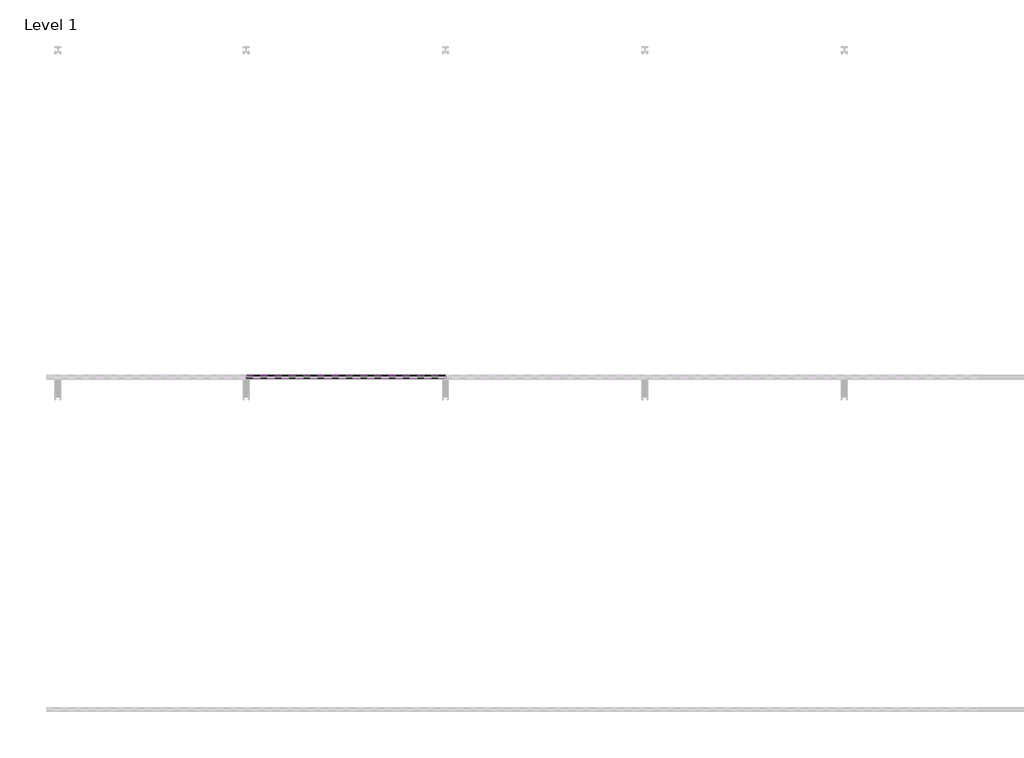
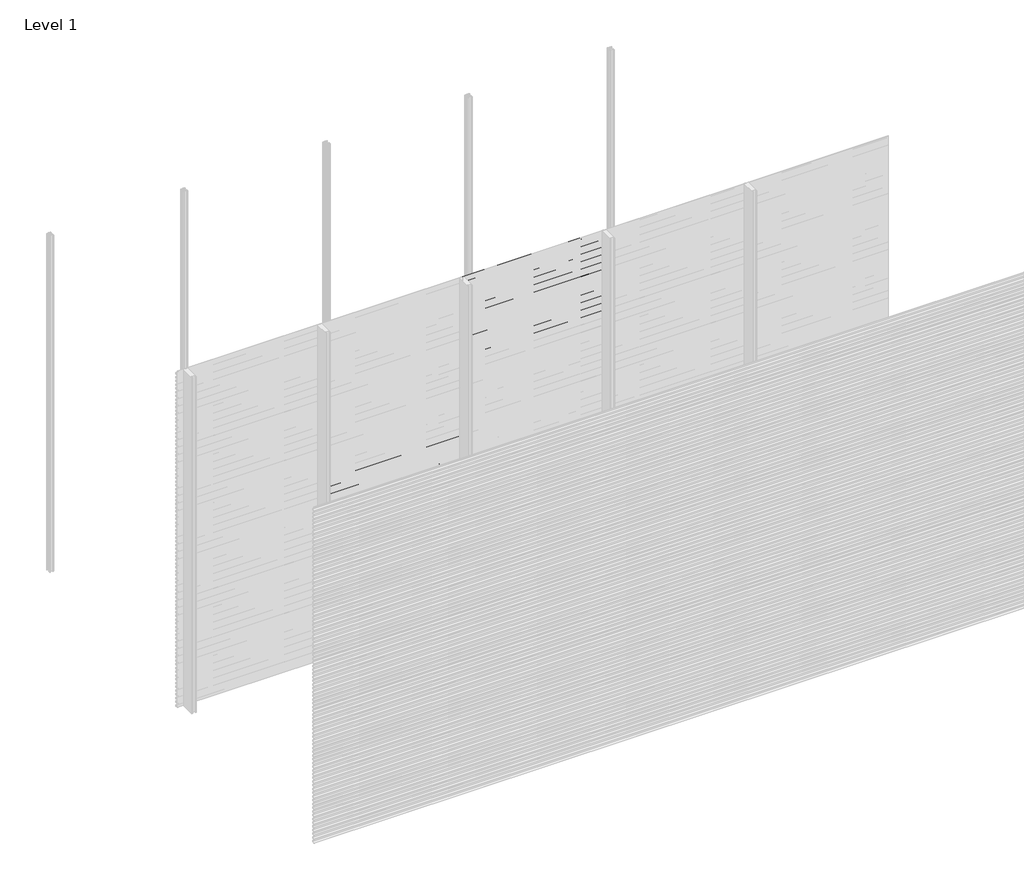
# One storey, part 14 of 77: 72 proxies.
"""IFC4 building model written with IfcOpenShell, lengths in millimetres."""

from ifc_helpers import new_model, si_unit, frame, origin, place, context, project, spatial, polyline, outline, extrude, element, save

model = new_model("IFC4")

# Units and contexts
model_context = context("Model", 3, world=origin())
ifc_project = project(units=[si_unit("LENGTHUNIT", "METRE", prefix="MILLI")], contexts=[model_context])

# Site, building, storey
site = spatial("IfcSite", under=ifc_project)
building = spatial("IfcBuilding", under=site)
storey = spatial("IfcBuildingStorey", under=building, Name="Level 1", Elevation=0.0)

# Proxies
placement = place(None, origin())
element("IfcBuildingElementProxy", 1, Name="Wall Sweeps", at=placement, inside=storey, context=model_context, shape_type="SweptSolid", body=[
    extrude(outline(polyline([(-47978.6, 1607.2359887), (-47998.0, 1618.4366691), (-47998.0, 1631.7), (-47997.0, 1631.7), (-47997.0, 1619.0191057), (-47977.6, 1607.8185105), (-47977.6, 1594.2185105), (-47978.6, 1595.7953129), (-47978.6, 1601.6032062), (-47995.9773817, 1593.5), (-47996.4, 1594.4063078), (-47978.6, 1602.7065841), (-47978.6, 1607.2359887)])), frame((1200.0, 0.0, 0.0), z_axis=(1.0, 0.0, 0.0), x_axis=(0.0, 1.0, 0.0)), (0.0, 0.0, 1.0), 1200.0),
])
element("IfcBuildingElementProxy", 2, Name="Wall Sweeps", at=placement, inside=storey, context=model_context, shape_type="SweptSolid", body=[
    extrude(outline(polyline([(-47978.6, 1573.9359887), (-47998.0, 1585.1366691), (-47998.0, 1598.4), (-47997.0, 1598.4), (-47997.0, 1585.7191057), (-47977.6, 1574.5185105), (-47977.6, 1560.9185105), (-47978.6, 1562.4953129), (-47978.6, 1568.3032062), (-47995.9773817, 1560.2), (-47996.4, 1561.1063078), (-47978.6, 1569.4065841), (-47978.6, 1573.9359887)])), frame((1200.0, 0.0, 0.0), z_axis=(1.0, 0.0, 0.0), x_axis=(0.0, 1.0, 0.0)), (0.0, 0.0, 1.0), 1200.0),
])
element("IfcBuildingElementProxy", 3, Name="Wall Sweeps", at=placement, inside=storey, context=model_context, shape_type="SweptSolid", body=[
    extrude(outline(polyline([(-47978.6, 1540.6359887), (-47998.0, 1551.8366691), (-47998.0, 1565.1), (-47997.0, 1565.1), (-47997.0, 1552.4191057), (-47977.6, 1541.2185105), (-47977.6, 1527.6185105), (-47978.6, 1529.1953129), (-47978.6, 1535.0032062), (-47995.9773817, 1526.9), (-47996.4, 1527.8063078), (-47978.6, 1536.1065841), (-47978.6, 1540.6359887)])), frame((1200.0, 0.0, 0.0), z_axis=(1.0, 0.0, 0.0), x_axis=(0.0, 1.0, 0.0)), (0.0, 0.0, 1.0), 1200.0),
])
element("IfcBuildingElementProxy", 4, Name="Wall Sweeps", at=placement, inside=storey, context=model_context, shape_type="SweptSolid", body=[
    extrude(outline(polyline([(-47978.6, 1507.3359887), (-47998.0, 1518.5366691), (-47998.0, 1531.8), (-47997.0, 1531.8), (-47997.0, 1519.1191057), (-47977.6, 1507.9185105), (-47977.6, 1494.3185105), (-47978.6, 1495.8953129), (-47978.6, 1501.7032062), (-47995.9773817, 1493.6), (-47996.4, 1494.5063078), (-47978.6, 1502.8065841), (-47978.6, 1507.3359887)])), frame((1200.0, 0.0, 0.0), z_axis=(1.0, 0.0, 0.0), x_axis=(0.0, 1.0, 0.0)), (0.0, 0.0, 1.0), 1200.0),
])
element("IfcBuildingElementProxy", 5, Name="Wall Sweeps", at=placement, inside=storey, context=model_context, shape_type="SweptSolid", body=[
    extrude(outline(polyline([(-47978.6, 1474.0359887), (-47998.0, 1485.2366691), (-47998.0, 1498.5), (-47997.0, 1498.5), (-47997.0, 1485.8191057), (-47977.6, 1474.6185105), (-47977.6, 1461.0185105), (-47978.6, 1462.5953129), (-47978.6, 1468.4032062), (-47995.9773817, 1460.3), (-47996.4, 1461.2063078), (-47978.6, 1469.5065841), (-47978.6, 1474.0359887)])), frame((1200.0, 0.0, 0.0), z_axis=(1.0, 0.0, 0.0), x_axis=(0.0, 1.0, 0.0)), (0.0, 0.0, 1.0), 1200.0),
])
element("IfcBuildingElementProxy", 6, Name="Wall Sweeps", at=placement, inside=storey, context=model_context, shape_type="SweptSolid", body=[
    extrude(outline(polyline([(-47978.6, 1440.7359887), (-47998.0, 1451.9366691), (-47998.0, 1465.2), (-47997.0, 1465.2), (-47997.0, 1452.5191057), (-47977.6, 1441.3185105), (-47977.6, 1427.7185105), (-47978.6, 1429.2953129), (-47978.6, 1435.1032062), (-47995.9773817, 1427.0), (-47996.4, 1427.9063078), (-47978.6, 1436.2065841), (-47978.6, 1440.7359887)])), frame((1200.0, 0.0, 0.0), z_axis=(1.0, 0.0, 0.0), x_axis=(0.0, 1.0, 0.0)), (0.0, 0.0, 1.0), 1200.0),
])
element("IfcBuildingElementProxy", 7, Name="Wall Sweeps", at=placement, inside=storey, context=model_context, shape_type="SweptSolid", body=[
    extrude(outline(polyline([(-47978.6, 1407.4359887), (-47998.0, 1418.6366691), (-47998.0, 1431.9), (-47997.0, 1431.9), (-47997.0, 1419.2191057), (-47977.6, 1408.0185105), (-47977.6, 1394.4185105), (-47978.6, 1395.9953129), (-47978.6, 1401.8032062), (-47995.9773817, 1393.7), (-47996.4, 1394.6063078), (-47978.6, 1402.9065841), (-47978.6, 1407.4359887)])), frame((1200.0, 0.0, 0.0), z_axis=(1.0, 0.0, 0.0), x_axis=(0.0, 1.0, 0.0)), (0.0, 0.0, 1.0), 1200.0),
])
element("IfcBuildingElementProxy", 8, Name="Wall Sweeps", at=placement, inside=storey, context=model_context, shape_type="SweptSolid", body=[
    extrude(outline(polyline([(-47978.6, 1374.1359887), (-47998.0, 1385.3366691), (-47998.0, 1398.6), (-47997.0, 1398.6), (-47997.0, 1385.9191057), (-47977.6, 1374.7185105), (-47977.6, 1361.1185105), (-47978.6, 1362.6953129), (-47978.6, 1368.5032062), (-47995.9773817, 1360.4), (-47996.4, 1361.3063078), (-47978.6, 1369.6065841), (-47978.6, 1374.1359887)])), frame((1200.0, 0.0, 0.0), z_axis=(1.0, 0.0, 0.0), x_axis=(0.0, 1.0, 0.0)), (0.0, 0.0, 1.0), 1200.0),
])
element("IfcBuildingElementProxy", 9, Name="Wall Sweeps", at=placement, inside=storey, context=model_context, shape_type="SweptSolid", body=[
    extrude(outline(polyline([(-47978.6, 1340.8359887), (-47998.0, 1352.0366691), (-47998.0, 1365.3), (-47997.0, 1365.3), (-47997.0, 1352.6191057), (-47977.6, 1341.4185105), (-47977.6, 1327.8185105), (-47978.6, 1329.3953129), (-47978.6, 1335.2032062), (-47995.9773817, 1327.1), (-47996.4, 1328.0063078), (-47978.6, 1336.3065841), (-47978.6, 1340.8359887)])), frame((1200.0, 0.0, 0.0), z_axis=(1.0, 0.0, 0.0), x_axis=(0.0, 1.0, 0.0)), (0.0, 0.0, 1.0), 1200.0),
])
element("IfcBuildingElementProxy", 10, Name="Wall Sweeps", at=placement, inside=storey, context=model_context, shape_type="SweptSolid", body=[
    extrude(outline(polyline([(-47978.6, 1307.5359887), (-47998.0, 1318.7366691), (-47998.0, 1332.0), (-47997.0, 1332.0), (-47997.0, 1319.3191057), (-47977.6, 1308.1185105), (-47977.6, 1294.5185105), (-47978.6, 1296.0953129), (-47978.6, 1301.9032062), (-47995.9773817, 1293.8), (-47996.4, 1294.7063078), (-47978.6, 1303.0065841), (-47978.6, 1307.5359887)])), frame((1200.0, 0.0, 0.0), z_axis=(1.0, 0.0, 0.0), x_axis=(0.0, 1.0, 0.0)), (0.0, 0.0, 1.0), 1200.0),
])
element("IfcBuildingElementProxy", 11, Name="Wall Sweeps", at=placement, inside=storey, context=model_context, shape_type="SweptSolid", body=[
    extrude(outline(polyline([(-47978.6, 1274.2359887), (-47998.0, 1285.4366691), (-47998.0, 1298.7), (-47997.0, 1298.7), (-47997.0, 1286.0191057), (-47977.6, 1274.8185105), (-47977.6, 1261.2185105), (-47978.6, 1262.7953129), (-47978.6, 1268.6032062), (-47995.9773817, 1260.5), (-47996.4, 1261.4063078), (-47978.6, 1269.7065841), (-47978.6, 1274.2359887)])), frame((1200.0, 0.0, 0.0), z_axis=(1.0, 0.0, 0.0), x_axis=(0.0, 1.0, 0.0)), (0.0, 0.0, 1.0), 1200.0),
])
element("IfcBuildingElementProxy", 12, Name="Wall Sweeps", at=placement, inside=storey, context=model_context, shape_type="SweptSolid", body=[
    extrude(outline(polyline([(-47978.6, 1240.9359887), (-47998.0, 1252.1366691), (-47998.0, 1265.4), (-47997.0, 1265.4), (-47997.0, 1252.7191057), (-47977.6, 1241.5185105), (-47977.6, 1227.9185105), (-47978.6, 1229.4953129), (-47978.6, 1235.3032062), (-47995.9773817, 1227.2), (-47996.4, 1228.1063078), (-47978.6, 1236.4065841), (-47978.6, 1240.9359887)])), frame((1200.0, 0.0, 0.0), z_axis=(1.0, 0.0, 0.0), x_axis=(0.0, 1.0, 0.0)), (0.0, 0.0, 1.0), 1200.0),
])
element("IfcBuildingElementProxy", 13, Name="Wall Sweeps", at=placement, inside=storey, context=model_context, shape_type="SweptSolid", body=[
    extrude(outline(polyline([(-47978.6, 1207.6359887), (-47998.0, 1218.8366691), (-47998.0, 1232.1), (-47997.0, 1232.1), (-47997.0, 1219.4191057), (-47977.6, 1208.2185105), (-47977.6, 1194.6185105), (-47978.6, 1196.1953129), (-47978.6, 1202.0032062), (-47995.9773817, 1193.9), (-47996.4, 1194.8063078), (-47978.6, 1203.1065841), (-47978.6, 1207.6359887)])), frame((1200.0, 0.0, 0.0), z_axis=(1.0, 0.0, 0.0), x_axis=(0.0, 1.0, 0.0)), (0.0, 0.0, 1.0), 1200.0),
])
element("IfcBuildingElementProxy", 14, Name="Wall Sweeps", at=placement, inside=storey, context=model_context, shape_type="SweptSolid", body=[
    extrude(outline(polyline([(-47978.6, 1174.3359887), (-47998.0, 1185.5366691), (-47998.0, 1198.8), (-47997.0, 1198.8), (-47997.0, 1186.1191057), (-47977.6, 1174.9185105), (-47977.6, 1161.3185105), (-47978.6, 1162.8953129), (-47978.6, 1168.7032062), (-47995.9773817, 1160.6), (-47996.4, 1161.5063078), (-47978.6, 1169.8065841), (-47978.6, 1174.3359887)])), frame((1200.0, 0.0, 0.0), z_axis=(1.0, 0.0, 0.0), x_axis=(0.0, 1.0, 0.0)), (0.0, 0.0, 1.0), 1200.0),
])
element("IfcBuildingElementProxy", 15, Name="Wall Sweeps", at=placement, inside=storey, context=model_context, shape_type="SweptSolid", body=[
    extrude(outline(polyline([(-47978.6, 1141.0359887), (-47998.0, 1152.2366691), (-47998.0, 1165.5), (-47997.0, 1165.5), (-47997.0, 1152.8191057), (-47977.6, 1141.6185105), (-47977.6, 1128.0185105), (-47978.6, 1129.5953129), (-47978.6, 1135.4032062), (-47995.9773817, 1127.3), (-47996.4, 1128.2063078), (-47978.6, 1136.5065841), (-47978.6, 1141.0359887)])), frame((1200.0, 0.0, 0.0), z_axis=(1.0, 0.0, 0.0), x_axis=(0.0, 1.0, 0.0)), (0.0, 0.0, 1.0), 1200.0),
])
element("IfcBuildingElementProxy", 16, Name="Wall Sweeps", at=placement, inside=storey, context=model_context, shape_type="SweptSolid", body=[
    extrude(outline(polyline([(-47978.6, 1107.7359887), (-47998.0, 1118.9366691), (-47998.0, 1132.2), (-47997.0, 1132.2), (-47997.0, 1119.5191057), (-47977.6, 1108.3185105), (-47977.6, 1094.7185105), (-47978.6, 1096.2953129), (-47978.6, 1102.1032062), (-47995.9773817, 1094.0), (-47996.4, 1094.9063078), (-47978.6, 1103.2065841), (-47978.6, 1107.7359887)])), frame((1200.0, 0.0, 0.0), z_axis=(1.0, 0.0, 0.0), x_axis=(0.0, 1.0, 0.0)), (0.0, 0.0, 1.0), 1200.0),
])
element("IfcBuildingElementProxy", 17, Name="Wall Sweeps", at=placement, inside=storey, context=model_context, shape_type="SweptSolid", body=[
    extrude(outline(polyline([(-47978.6, 1074.4359887), (-47998.0, 1085.6366691), (-47998.0, 1098.9), (-47997.0, 1098.9), (-47997.0, 1086.2191057), (-47977.6, 1075.0185105), (-47977.6, 1061.4185105), (-47978.6, 1062.9953129), (-47978.6, 1068.8032062), (-47995.9773817, 1060.7), (-47996.4, 1061.6063078), (-47978.6, 1069.9065841), (-47978.6, 1074.4359887)])), frame((1200.0, 0.0, 0.0), z_axis=(1.0, 0.0, 0.0), x_axis=(0.0, 1.0, 0.0)), (0.0, 0.0, 1.0), 1200.0),
])
element("IfcBuildingElementProxy", 18, Name="Wall Sweeps", at=placement, inside=storey, context=model_context, shape_type="SweptSolid", body=[
    extrude(outline(polyline([(-47978.6, 1041.1359887), (-47998.0, 1052.3366691), (-47998.0, 1065.6), (-47997.0, 1065.6), (-47997.0, 1052.9191057), (-47977.6, 1041.7185105), (-47977.6, 1028.1185105), (-47978.6, 1029.6953129), (-47978.6, 1035.5032062), (-47995.9773817, 1027.4), (-47996.4, 1028.3063078), (-47978.6, 1036.6065841), (-47978.6, 1041.1359887)])), frame((1200.0, 0.0, 0.0), z_axis=(1.0, 0.0, 0.0), x_axis=(0.0, 1.0, 0.0)), (0.0, 0.0, 1.0), 1200.0),
])
element("IfcBuildingElementProxy", 19, Name="Wall Sweeps", at=placement, inside=storey, context=model_context, shape_type="SweptSolid", body=[
    extrude(outline(polyline([(-47978.6, 1007.8359887), (-47998.0, 1019.0366691), (-47998.0, 1032.3), (-47997.0, 1032.3), (-47997.0, 1019.6191057), (-47977.6, 1008.4185105), (-47977.6, 994.8185105), (-47978.6, 996.3953129), (-47978.6, 1002.2032062), (-47995.9773817, 994.1), (-47996.4, 995.0063078), (-47978.6, 1003.3065841), (-47978.6, 1007.8359887)])), frame((1200.0, 0.0, 0.0), z_axis=(1.0, 0.0, 0.0), x_axis=(0.0, 1.0, 0.0)), (0.0, 0.0, 1.0), 1200.0),
])
element("IfcBuildingElementProxy", 20, Name="Wall Sweeps", at=placement, inside=storey, context=model_context, shape_type="SweptSolid", body=[
    extrude(outline(polyline([(-47978.6, 974.5359887), (-47998.0, 985.7366691), (-47998.0, 999.0), (-47997.0, 999.0), (-47997.0, 986.3191057), (-47977.6, 975.1185105), (-47977.6, 961.5185105), (-47978.6, 963.0953129), (-47978.6, 968.9032062), (-47995.9773817, 960.8), (-47996.4, 961.7063078), (-47978.6, 970.0065841), (-47978.6, 974.5359887)])), frame((1200.0, 0.0, 0.0), z_axis=(1.0, 0.0, 0.0), x_axis=(0.0, 1.0, 0.0)), (0.0, 0.0, 1.0), 1200.0),
])
element("IfcBuildingElementProxy", 21, Name="Wall Sweeps", at=placement, inside=storey, context=model_context, shape_type="SweptSolid", body=[
    extrude(outline(polyline([(-47978.6, 941.2359887), (-47998.0, 952.4366691), (-47998.0, 965.7), (-47997.0, 965.7), (-47997.0, 953.0191057), (-47977.6, 941.8185105), (-47977.6, 928.2185105), (-47978.6, 929.7953129), (-47978.6, 935.6032062), (-47995.9773817, 927.5), (-47996.4, 928.4063078), (-47978.6, 936.7065841), (-47978.6, 941.2359887)])), frame((1200.0, 0.0, 0.0), z_axis=(1.0, 0.0, 0.0), x_axis=(0.0, 1.0, 0.0)), (0.0, 0.0, 1.0), 1200.0),
])
element("IfcBuildingElementProxy", 22, Name="Wall Sweeps", at=placement, inside=storey, context=model_context, shape_type="SweptSolid", body=[
    extrude(outline(polyline([(-47978.6, 907.9359887), (-47998.0, 919.1366691), (-47998.0, 932.4), (-47997.0, 932.4), (-47997.0, 919.7191057), (-47977.6, 908.5185105), (-47977.6, 894.9185105), (-47978.6, 896.4953129), (-47978.6, 902.3032062), (-47995.9773817, 894.2), (-47996.4, 895.1063078), (-47978.6, 903.4065841), (-47978.6, 907.9359887)])), frame((1200.0, 0.0, 0.0), z_axis=(1.0, 0.0, 0.0), x_axis=(0.0, 1.0, 0.0)), (0.0, 0.0, 1.0), 1200.0),
])
element("IfcBuildingElementProxy", 23, Name="Wall Sweeps", at=placement, inside=storey, context=model_context, shape_type="SweptSolid", body=[
    extrude(outline(polyline([(-47978.6, 874.6359887), (-47998.0, 885.8366691), (-47998.0, 899.1), (-47997.0, 899.1), (-47997.0, 886.4191057), (-47977.6, 875.2185105), (-47977.6, 861.6185105), (-47978.6, 863.1953129), (-47978.6, 869.0032062), (-47995.9773817, 860.9), (-47996.4, 861.8063078), (-47978.6, 870.1065841), (-47978.6, 874.6359887)])), frame((1200.0, 0.0, 0.0), z_axis=(1.0, 0.0, 0.0), x_axis=(0.0, 1.0, 0.0)), (0.0, 0.0, 1.0), 1200.0),
])
element("IfcBuildingElementProxy", 24, Name="Wall Sweeps", at=placement, inside=storey, context=model_context, shape_type="SweptSolid", body=[
    extrude(outline(polyline([(-47978.6, 841.3359887), (-47998.0, 852.5366691), (-47998.0, 865.8), (-47997.0, 865.8), (-47997.0, 853.1191057), (-47977.6, 841.9185105), (-47977.6, 828.3185105), (-47978.6, 829.8953129), (-47978.6, 835.7032062), (-47995.9773817, 827.6), (-47996.4, 828.5063078), (-47978.6, 836.8065841), (-47978.6, 841.3359887)])), frame((1200.0, 0.0, 0.0), z_axis=(1.0, 0.0, 0.0), x_axis=(0.0, 1.0, 0.0)), (0.0, 0.0, 1.0), 1200.0),
])
element("IfcBuildingElementProxy", 25, Name="Wall Sweeps", at=placement, inside=storey, context=model_context, shape_type="SweptSolid", body=[
    extrude(outline(polyline([(-47978.6, 808.0359887), (-47998.0, 819.2366691), (-47998.0, 832.5), (-47997.0, 832.5), (-47997.0, 819.8191057), (-47977.6, 808.6185105), (-47977.6, 795.0185105), (-47978.6, 796.5953129), (-47978.6, 802.4032062), (-47995.9773817, 794.3), (-47996.4, 795.2063078), (-47978.6, 803.5065841), (-47978.6, 808.0359887)])), frame((1200.0, 0.0, 0.0), z_axis=(1.0, 0.0, 0.0), x_axis=(0.0, 1.0, 0.0)), (0.0, 0.0, 1.0), 1200.0),
])
element("IfcBuildingElementProxy", 26, Name="Wall Sweeps", at=placement, inside=storey, context=model_context, shape_type="SweptSolid", body=[
    extrude(outline(polyline([(-47978.6, 774.7359887), (-47998.0, 785.9366691), (-47998.0, 799.2), (-47997.0, 799.2), (-47997.0, 786.5191057), (-47977.6, 775.3185105), (-47977.6, 761.7185105), (-47978.6, 763.2953129), (-47978.6, 769.1032062), (-47995.9773817, 761.0), (-47996.4, 761.9063078), (-47978.6, 770.2065841), (-47978.6, 774.7359887)])), frame((1200.0, 0.0, 0.0), z_axis=(1.0, 0.0, 0.0), x_axis=(0.0, 1.0, 0.0)), (0.0, 0.0, 1.0), 1200.0),
])
element("IfcBuildingElementProxy", 27, Name="Wall Sweeps", at=placement, inside=storey, context=model_context, shape_type="SweptSolid", body=[
    extrude(outline(polyline([(-47978.6, 741.4359887), (-47998.0, 752.6366691), (-47998.0, 765.9), (-47997.0, 765.9), (-47997.0, 753.2191057), (-47977.6, 742.0185105), (-47977.6, 728.4185105), (-47978.6, 729.9953129), (-47978.6, 735.8032062), (-47995.9773817, 727.7), (-47996.4, 728.6063078), (-47978.6, 736.9065841), (-47978.6, 741.4359887)])), frame((1200.0, 0.0, 0.0), z_axis=(1.0, 0.0, 0.0), x_axis=(0.0, 1.0, 0.0)), (0.0, 0.0, 1.0), 1200.0),
])
element("IfcBuildingElementProxy", 28, Name="Wall Sweeps", at=placement, inside=storey, context=model_context, shape_type="SweptSolid", body=[
    extrude(outline(polyline([(-47978.6, 708.1359887), (-47998.0, 719.3366691), (-47998.0, 732.6), (-47997.0, 732.6), (-47997.0, 719.9191057), (-47977.6, 708.7185105), (-47977.6, 695.1185105), (-47978.6, 696.6953129), (-47978.6, 702.5032062), (-47995.9773817, 694.4), (-47996.4, 695.3063078), (-47978.6, 703.6065841), (-47978.6, 708.1359887)])), frame((1200.0, 0.0, 0.0), z_axis=(1.0, 0.0, 0.0), x_axis=(0.0, 1.0, 0.0)), (0.0, 0.0, 1.0), 1200.0),
])
element("IfcBuildingElementProxy", 29, Name="Wall Sweeps", at=placement, inside=storey, context=model_context, shape_type="SweptSolid", body=[
    extrude(outline(polyline([(-47978.6, 674.8359887), (-47998.0, 686.0366691), (-47998.0, 699.3), (-47997.0, 699.3), (-47997.0, 686.6191057), (-47977.6, 675.4185105), (-47977.6, 661.8185105), (-47978.6, 663.3953129), (-47978.6, 669.2032062), (-47995.9773817, 661.1), (-47996.4, 662.0063078), (-47978.6, 670.3065841), (-47978.6, 674.8359887)])), frame((1200.0, 0.0, 0.0), z_axis=(1.0, 0.0, 0.0), x_axis=(0.0, 1.0, 0.0)), (0.0, 0.0, 1.0), 1200.0),
])
element("IfcBuildingElementProxy", 30, Name="Wall Sweeps", at=placement, inside=storey, context=model_context, shape_type="SweptSolid", body=[
    extrude(outline(polyline([(-47978.6, 641.5359887), (-47998.0, 652.7366691), (-47998.0, 666.0), (-47997.0, 666.0), (-47997.0, 653.3191057), (-47977.6, 642.1185105), (-47977.6, 628.5185105), (-47978.6, 630.0953129), (-47978.6, 635.9032062), (-47995.9773817, 627.8), (-47996.4, 628.7063078), (-47978.6, 637.0065841), (-47978.6, 641.5359887)])), frame((1200.0, 0.0, 0.0), z_axis=(1.0, 0.0, 0.0), x_axis=(0.0, 1.0, 0.0)), (0.0, 0.0, 1.0), 1200.0),
])
element("IfcBuildingElementProxy", 31, Name="Wall Sweeps", at=placement, inside=storey, context=model_context, shape_type="SweptSolid", body=[
    extrude(outline(polyline([(-47978.6, 608.2359887), (-47998.0, 619.4366691), (-47998.0, 632.7), (-47997.0, 632.7), (-47997.0, 620.0191057), (-47977.6, 608.8185105), (-47977.6, 595.2185105), (-47978.6, 596.7953129), (-47978.6, 602.6032062), (-47995.9773817, 594.5), (-47996.4, 595.4063078), (-47978.6, 603.7065841), (-47978.6, 608.2359887)])), frame((1200.0, 0.0, 0.0), z_axis=(1.0, 0.0, 0.0), x_axis=(0.0, 1.0, 0.0)), (0.0, 0.0, 1.0), 1200.0),
])
element("IfcBuildingElementProxy", 32, Name="Wall Sweeps", at=placement, inside=storey, context=model_context, shape_type="SweptSolid", body=[
    extrude(outline(polyline([(-47978.6, 574.9359887), (-47998.0, 586.1366691), (-47998.0, 599.4), (-47997.0, 599.4), (-47997.0, 586.7191057), (-47977.6, 575.5185105), (-47977.6, 561.9185105), (-47978.6, 563.4953129), (-47978.6, 569.3032062), (-47995.9773817, 561.2), (-47996.4, 562.1063078), (-47978.6, 570.4065841), (-47978.6, 574.9359887)])), frame((1200.0, 0.0, 0.0), z_axis=(1.0, 0.0, 0.0), x_axis=(0.0, 1.0, 0.0)), (0.0, 0.0, 1.0), 1200.0),
])
element("IfcBuildingElementProxy", 33, Name="Wall Sweeps", at=placement, inside=storey, context=model_context, shape_type="SweptSolid", body=[
    extrude(outline(polyline([(-47978.6, 541.6359887), (-47998.0, 552.8366691), (-47998.0, 566.1), (-47997.0, 566.1), (-47997.0, 553.4191057), (-47977.6, 542.2185105), (-47977.6, 528.6185105), (-47978.6, 530.1953129), (-47978.6, 536.0032062), (-47995.9773817, 527.9), (-47996.4, 528.8063078), (-47978.6, 537.1065841), (-47978.6, 541.6359887)])), frame((1200.0, 0.0, 0.0), z_axis=(1.0, 0.0, 0.0), x_axis=(0.0, 1.0, 0.0)), (0.0, 0.0, 1.0), 1200.0),
])
element("IfcBuildingElementProxy", 34, Name="Wall Sweeps", at=placement, inside=storey, context=model_context, shape_type="SweptSolid", body=[
    extrude(outline(polyline([(-47978.6, 508.3359887), (-47998.0, 519.5366691), (-47998.0, 532.8), (-47997.0, 532.8), (-47997.0, 520.1191057), (-47977.6, 508.9185105), (-47977.6, 495.3185105), (-47978.6, 496.8953129), (-47978.6, 502.7032062), (-47995.9773817, 494.6), (-47996.4, 495.5063078), (-47978.6, 503.8065841), (-47978.6, 508.3359887)])), frame((1200.0, 0.0, 0.0), z_axis=(1.0, 0.0, 0.0), x_axis=(0.0, 1.0, 0.0)), (0.0, 0.0, 1.0), 1200.0),
])
element("IfcBuildingElementProxy", 35, Name="Wall Sweeps", at=placement, inside=storey, context=model_context, shape_type="SweptSolid", body=[
    extrude(outline(polyline([(-47978.6, 475.0359887), (-47998.0, 486.2366691), (-47998.0, 499.5), (-47997.0, 499.5), (-47997.0, 486.8191057), (-47977.6, 475.6185105), (-47977.6, 462.0185105), (-47978.6, 463.5953129), (-47978.6, 469.4032062), (-47995.9773817, 461.3), (-47996.4, 462.2063078), (-47978.6, 470.5065841), (-47978.6, 475.0359887)])), frame((1200.0, 0.0, 0.0), z_axis=(1.0, 0.0, 0.0), x_axis=(0.0, 1.0, 0.0)), (0.0, 0.0, 1.0), 1200.0),
])
element("IfcBuildingElementProxy", 36, Name="Wall Sweeps", at=placement, inside=storey, context=model_context, shape_type="SweptSolid", body=[
    extrude(outline(polyline([(-47978.6, 441.7359887), (-47998.0, 452.9366691), (-47998.0, 466.2), (-47997.0, 466.2), (-47997.0, 453.5191057), (-47977.6, 442.3185105), (-47977.6, 428.7185105), (-47978.6, 430.2953129), (-47978.6, 436.1032062), (-47995.9773817, 428.0), (-47996.4, 428.9063078), (-47978.6, 437.2065841), (-47978.6, 441.7359887)])), frame((1200.0, 0.0, 0.0), z_axis=(1.0, 0.0, 0.0), x_axis=(0.0, 1.0, 0.0)), (0.0, 0.0, 1.0), 1200.0),
])
element("IfcBuildingElementProxy", 37, Name="Wall Sweeps", at=placement, inside=storey, context=model_context, shape_type="SweptSolid", body=[
    extrude(outline(polyline([(-47978.6, 408.4359887), (-47998.0, 419.6366691), (-47998.0, 432.9), (-47997.0, 432.9), (-47997.0, 420.2191057), (-47977.6, 409.0185105), (-47977.6, 395.4185105), (-47978.6, 396.9953129), (-47978.6, 402.8032062), (-47995.9773817, 394.7), (-47996.4, 395.6063078), (-47978.6, 403.9065841), (-47978.6, 408.4359887)])), frame((1200.0, 0.0, 0.0), z_axis=(1.0, 0.0, 0.0), x_axis=(0.0, 1.0, 0.0)), (0.0, 0.0, 1.0), 1200.0),
])
element("IfcBuildingElementProxy", 38, Name="Wall Sweeps", at=placement, inside=storey, context=model_context, shape_type="SweptSolid", body=[
    extrude(outline(polyline([(-47978.6, 375.1359887), (-47998.0, 386.3366691), (-47998.0, 399.6), (-47997.0, 399.6), (-47997.0, 386.9191057), (-47977.6, 375.7185105), (-47977.6, 362.1185105), (-47978.6, 363.6953129), (-47978.6, 369.5032062), (-47995.9773817, 361.4), (-47996.4, 362.3063078), (-47978.6, 370.6065841), (-47978.6, 375.1359887)])), frame((1200.0, 0.0, 0.0), z_axis=(1.0, 0.0, 0.0), x_axis=(0.0, 1.0, 0.0)), (0.0, 0.0, 1.0), 1200.0),
])
element("IfcBuildingElementProxy", 39, Name="Wall Sweeps", at=placement, inside=storey, context=model_context, shape_type="SweptSolid", body=[
    extrude(outline(polyline([(-47978.6, 341.8359887), (-47998.0, 353.0366691), (-47998.0, 366.3), (-47997.0, 366.3), (-47997.0, 353.6191057), (-47977.6, 342.4185105), (-47977.6, 328.8185105), (-47978.6, 330.3953129), (-47978.6, 336.2032062), (-47995.9773817, 328.1), (-47996.4, 329.0063078), (-47978.6, 337.3065841), (-47978.6, 341.8359887)])), frame((1200.0, 0.0, 0.0), z_axis=(1.0, 0.0, 0.0), x_axis=(0.0, 1.0, 0.0)), (0.0, 0.0, 1.0), 1200.0),
])
element("IfcBuildingElementProxy", 40, Name="Wall Sweeps", at=placement, inside=storey, context=model_context, shape_type="SweptSolid", body=[
    extrude(outline(polyline([(-47978.6, 308.5359887), (-47998.0, 319.7366691), (-47998.0, 333.0), (-47997.0, 333.0), (-47997.0, 320.3191057), (-47977.6, 309.1185105), (-47977.6, 295.5185105), (-47978.6, 297.0953129), (-47978.6, 302.9032062), (-47995.9773817, 294.8), (-47996.4, 295.7063078), (-47978.6, 304.0065841), (-47978.6, 308.5359887)])), frame((1200.0, 0.0, 0.0), z_axis=(1.0, 0.0, 0.0), x_axis=(0.0, 1.0, 0.0)), (0.0, 0.0, 1.0), 1200.0),
])
element("IfcBuildingElementProxy", 41, Name="Wall Sweeps", at=placement, inside=storey, context=model_context, shape_type="SweptSolid", body=[
    extrude(outline(polyline([(-47978.6, 275.2359887), (-47998.0, 286.4366691), (-47998.0, 299.7), (-47997.0, 299.7), (-47997.0, 287.0191057), (-47977.6, 275.8185105), (-47977.6, 262.2185105), (-47978.6, 263.7953129), (-47978.6, 269.6032062), (-47995.9773817, 261.5), (-47996.4, 262.4063078), (-47978.6, 270.7065841), (-47978.6, 275.2359887)])), frame((1200.0, 0.0, 0.0), z_axis=(1.0, 0.0, 0.0), x_axis=(0.0, 1.0, 0.0)), (0.0, 0.0, 1.0), 1200.0),
])
element("IfcBuildingElementProxy", 42, Name="Wall Sweeps", at=placement, inside=storey, context=model_context, shape_type="SweptSolid", body=[
    extrude(outline(polyline([(-47978.6, 241.9359887), (-47998.0, 253.1366691), (-47998.0, 266.4), (-47997.0, 266.4), (-47997.0, 253.7191057), (-47977.6, 242.5185105), (-47977.6, 228.9185105), (-47978.6, 230.4953129), (-47978.6, 236.3032062), (-47995.9773817, 228.2), (-47996.4, 229.1063078), (-47978.6, 237.4065841), (-47978.6, 241.9359887)])), frame((1200.0, 0.0, 0.0), z_axis=(1.0, 0.0, 0.0), x_axis=(0.0, 1.0, 0.0)), (0.0, 0.0, 1.0), 1200.0),
])
element("IfcBuildingElementProxy", 43, Name="Wall Sweeps", at=placement, inside=storey, context=model_context, shape_type="SweptSolid", body=[
    extrude(outline(polyline([(-47978.6, 208.6359887), (-47998.0, 219.8366691), (-47998.0, 233.1), (-47997.0, 233.1), (-47997.0, 220.4191057), (-47977.6, 209.2185105), (-47977.6, 195.6185105), (-47978.6, 197.1953129), (-47978.6, 203.0032062), (-47995.9773817, 194.9), (-47996.4, 195.8063078), (-47978.6, 204.1065841), (-47978.6, 208.6359887)])), frame((1200.0, 0.0, 0.0), z_axis=(1.0, 0.0, 0.0), x_axis=(0.0, 1.0, 0.0)), (0.0, 0.0, 1.0), 1200.0),
])
element("IfcBuildingElementProxy", 44, Name="Wall Sweeps", at=placement, inside=storey, context=model_context, shape_type="SweptSolid", body=[
    extrude(outline(polyline([(-47978.6, 175.3359887), (-47998.0, 186.5366691), (-47998.0, 199.8), (-47997.0, 199.8), (-47997.0, 187.1191057), (-47977.6, 175.9185105), (-47977.6, 162.3185105), (-47978.6, 163.8953129), (-47978.6, 169.7032062), (-47995.9773817, 161.6), (-47996.4, 162.5063078), (-47978.6, 170.8065841), (-47978.6, 175.3359887)])), frame((1200.0, 0.0, 0.0), z_axis=(1.0, 0.0, 0.0), x_axis=(0.0, 1.0, 0.0)), (0.0, 0.0, 1.0), 1200.0),
])
element("IfcBuildingElementProxy", 45, Name="Wall Sweeps", at=placement, inside=storey, context=model_context, shape_type="SweptSolid", body=[
    extrude(outline(polyline([(-47978.6, 142.0359887), (-47998.0, 153.2366691), (-47998.0, 166.5), (-47997.0, 166.5), (-47997.0, 153.8191057), (-47977.6, 142.6185105), (-47977.6, 129.0185105), (-47978.6, 130.5953129), (-47978.6, 136.4032062), (-47995.9773817, 128.3), (-47996.4, 129.2063078), (-47978.6, 137.5065841), (-47978.6, 142.0359887)])), frame((1200.0, 0.0, 0.0), z_axis=(1.0, 0.0, 0.0), x_axis=(0.0, 1.0, 0.0)), (0.0, 0.0, 1.0), 1200.0),
])
element("IfcBuildingElementProxy", 46, Name="Wall Sweeps", at=placement, inside=storey, context=model_context, shape_type="SweptSolid", body=[
    extrude(outline(polyline([(-47978.6, 108.7359887), (-47998.0, 119.9366691), (-47998.0, 133.2), (-47997.0, 133.2), (-47997.0, 120.5191057), (-47977.6, 109.3185105), (-47977.6, 95.7185105), (-47978.6, 97.2953129), (-47978.6, 103.1032062), (-47995.9773817, 95.0), (-47996.4, 95.9063078), (-47978.6, 104.2065841), (-47978.6, 108.7359887)])), frame((1200.0, 0.0, 0.0), z_axis=(1.0, 0.0, 0.0), x_axis=(0.0, 1.0, 0.0)), (0.0, 0.0, 1.0), 1200.0),
])
element("IfcBuildingElementProxy", 47, Name="Wall Sweeps", at=placement, inside=storey, context=model_context, shape_type="SweptSolid", body=[
    extrude(outline(polyline([(-47978.6, 75.4359887), (-47998.0, 86.6366691), (-47998.0, 99.9), (-47997.0, 99.9), (-47997.0, 87.2191057), (-47977.6, 76.0185105), (-47977.6, 62.4185105), (-47978.6, 63.9953129), (-47978.6, 69.8032062), (-47995.9773817, 61.7), (-47996.4, 62.6063078), (-47978.6, 70.9065841), (-47978.6, 75.4359887)])), frame((1200.0, 0.0, 0.0), z_axis=(1.0, 0.0, 0.0), x_axis=(0.0, 1.0, 0.0)), (0.0, 0.0, 1.0), 1200.0),
])
element("IfcBuildingElementProxy", 48, Name="Wall Sweeps", at=placement, inside=storey, context=model_context, shape_type="SweptSolid", body=[
    extrude(outline(polyline([(-47978.6, 42.1359887), (-47998.0, 53.3366691), (-47998.0, 66.6), (-47997.0, 66.6), (-47997.0, 53.9191057), (-47977.6, 42.7185105), (-47977.6, 29.1185105), (-47978.6, 30.6953129), (-47978.6, 36.5032062), (-47995.9773817, 28.4), (-47996.4, 29.3063078), (-47978.6, 37.6065841), (-47978.6, 42.1359887)])), frame((1200.0, 0.0, 0.0), z_axis=(1.0, 0.0, 0.0), x_axis=(0.0, 1.0, 0.0)), (0.0, 0.0, 1.0), 1200.0),
])
element("IfcBuildingElementProxy", 49, Name="Wall Sweeps", at=placement, inside=storey, context=model_context, shape_type="SweptSolid", body=[
    extrude(outline(polyline([(-47978.6, 8.8359887), (-47998.0, 20.0366691), (-47998.0, 33.3), (-47997.0, 33.3), (-47997.0, 20.6191057), (-47977.6, 9.4185105), (-47977.6, -4.1814895), (-47978.6, -2.6046871), (-47978.6, 3.2032062), (-47995.9773817, -4.9), (-47996.4, -3.9936922), (-47978.6, 4.3065841), (-47978.6, 8.8359887)])), frame((1200.0, 0.0, 0.0), z_axis=(1.0, 0.0, 0.0), x_axis=(0.0, 1.0, 0.0)), (0.0, 0.0, 1.0), 1200.0),
])
element("IfcBuildingElementProxy", 50, Name="Wall Sweeps", at=placement, inside=storey, context=model_context, shape_type="SweptSolid", body=[
    extrude(outline(polyline([(-47978.6, 2972.5359887), (-47998.0, 2983.7366691), (-47998.0, 2997.0), (-47997.0, 2997.0), (-47997.0, 2984.3191057), (-47977.6, 2973.1185105), (-47977.6, 2959.5185105), (-47978.6, 2961.0953129), (-47978.6, 2966.9032062), (-47995.9773817, 2958.8), (-47996.4, 2959.7063078), (-47978.6, 2968.0065841), (-47978.6, 2972.5359887)])), frame((2400.0, 0.0, 0.0), z_axis=(1.0, 0.0, 0.0), x_axis=(0.0, 1.0, 0.0)), (0.0, 0.0, 1.0), 1200.0),
])
element("IfcBuildingElementProxy", 51, Name="Wall Sweeps", at=placement, inside=storey, context=model_context, shape_type="SweptSolid", body=[
    extrude(outline(polyline([(-47978.6, 2939.2359887), (-47998.0, 2950.4366691), (-47998.0, 2963.7), (-47997.0, 2963.7), (-47997.0, 2951.0191057), (-47977.6, 2939.8185105), (-47977.6, 2926.2185105), (-47978.6, 2927.7953129), (-47978.6, 2933.6032062), (-47995.9773817, 2925.5), (-47996.4, 2926.4063078), (-47978.6, 2934.7065841), (-47978.6, 2939.2359887)])), frame((2400.0, 0.0, 0.0), z_axis=(1.0, 0.0, 0.0), x_axis=(0.0, 1.0, 0.0)), (0.0, 0.0, 1.0), 1200.0),
])
element("IfcBuildingElementProxy", 52, Name="Wall Sweeps", at=placement, inside=storey, context=model_context, shape_type="SweptSolid", body=[
    extrude(outline(polyline([(-47978.6, 2905.9359887), (-47998.0, 2917.1366691), (-47998.0, 2930.4), (-47997.0, 2930.4), (-47997.0, 2917.7191057), (-47977.6, 2906.5185105), (-47977.6, 2892.9185105), (-47978.6, 2894.4953129), (-47978.6, 2900.3032062), (-47995.9773817, 2892.2), (-47996.4, 2893.1063078), (-47978.6, 2901.4065841), (-47978.6, 2905.9359887)])), frame((2400.0, 0.0, 0.0), z_axis=(1.0, 0.0, 0.0), x_axis=(0.0, 1.0, 0.0)), (0.0, 0.0, 1.0), 1200.0),
])
element("IfcBuildingElementProxy", 53, Name="Wall Sweeps", at=placement, inside=storey, context=model_context, shape_type="SweptSolid", body=[
    extrude(outline(polyline([(-47978.6, 2872.6359887), (-47998.0, 2883.8366691), (-47998.0, 2897.1), (-47997.0, 2897.1), (-47997.0, 2884.4191057), (-47977.6, 2873.2185105), (-47977.6, 2859.6185105), (-47978.6, 2861.1953129), (-47978.6, 2867.0032062), (-47995.9773817, 2858.9), (-47996.4, 2859.8063078), (-47978.6, 2868.1065841), (-47978.6, 2872.6359887)])), frame((2400.0, 0.0, 0.0), z_axis=(1.0, 0.0, 0.0), x_axis=(0.0, 1.0, 0.0)), (0.0, 0.0, 1.0), 1200.0),
])
element("IfcBuildingElementProxy", 54, Name="Wall Sweeps", at=placement, inside=storey, context=model_context, shape_type="SweptSolid", body=[
    extrude(outline(polyline([(-47978.6, 2839.3359887), (-47998.0, 2850.5366691), (-47998.0, 2863.8), (-47997.0, 2863.8), (-47997.0, 2851.1191057), (-47977.6, 2839.9185105), (-47977.6, 2826.3185105), (-47978.6, 2827.8953129), (-47978.6, 2833.7032062), (-47995.9773817, 2825.6), (-47996.4, 2826.5063078), (-47978.6, 2834.8065841), (-47978.6, 2839.3359887)])), frame((2400.0, 0.0, 0.0), z_axis=(1.0, 0.0, 0.0), x_axis=(0.0, 1.0, 0.0)), (0.0, 0.0, 1.0), 1200.0),
])
element("IfcBuildingElementProxy", 55, Name="Wall Sweeps", at=placement, inside=storey, context=model_context, shape_type="SweptSolid", body=[
    extrude(outline(polyline([(-47978.6, 2806.0359887), (-47998.0, 2817.2366691), (-47998.0, 2830.5), (-47997.0, 2830.5), (-47997.0, 2817.8191057), (-47977.6, 2806.6185105), (-47977.6, 2793.0185105), (-47978.6, 2794.5953129), (-47978.6, 2800.4032062), (-47995.9773817, 2792.3), (-47996.4, 2793.2063078), (-47978.6, 2801.5065841), (-47978.6, 2806.0359887)])), frame((2400.0, 0.0, 0.0), z_axis=(1.0, 0.0, 0.0), x_axis=(0.0, 1.0, 0.0)), (0.0, 0.0, 1.0), 1200.0),
])
element("IfcBuildingElementProxy", 56, Name="Wall Sweeps", at=placement, inside=storey, context=model_context, shape_type="SweptSolid", body=[
    extrude(outline(polyline([(-47978.6, 2772.7359887), (-47998.0, 2783.9366691), (-47998.0, 2797.2), (-47997.0, 2797.2), (-47997.0, 2784.5191057), (-47977.6, 2773.3185105), (-47977.6, 2759.7185105), (-47978.6, 2761.2953129), (-47978.6, 2767.1032062), (-47995.9773817, 2759.0), (-47996.4, 2759.9063078), (-47978.6, 2768.2065841), (-47978.6, 2772.7359887)])), frame((2400.0, 0.0, 0.0), z_axis=(1.0, 0.0, 0.0), x_axis=(0.0, 1.0, 0.0)), (0.0, 0.0, 1.0), 1200.0),
])
element("IfcBuildingElementProxy", 57, Name="Wall Sweeps", at=placement, inside=storey, context=model_context, shape_type="SweptSolid", body=[
    extrude(outline(polyline([(-47978.6, 2739.4359887), (-47998.0, 2750.6366691), (-47998.0, 2763.9), (-47997.0, 2763.9), (-47997.0, 2751.2191057), (-47977.6, 2740.0185105), (-47977.6, 2726.4185105), (-47978.6, 2727.9953129), (-47978.6, 2733.8032062), (-47995.9773817, 2725.7), (-47996.4, 2726.6063078), (-47978.6, 2734.9065841), (-47978.6, 2739.4359887)])), frame((2400.0, 0.0, 0.0), z_axis=(1.0, 0.0, 0.0), x_axis=(0.0, 1.0, 0.0)), (0.0, 0.0, 1.0), 1200.0),
])
element("IfcBuildingElementProxy", 58, Name="Wall Sweeps", at=placement, inside=storey, context=model_context, shape_type="SweptSolid", body=[
    extrude(outline(polyline([(-47978.6, 2706.1359887), (-47998.0, 2717.3366691), (-47998.0, 2730.6), (-47997.0, 2730.6), (-47997.0, 2717.9191057), (-47977.6, 2706.7185105), (-47977.6, 2693.1185105), (-47978.6, 2694.6953129), (-47978.6, 2700.5032062), (-47995.9773817, 2692.4), (-47996.4, 2693.3063078), (-47978.6, 2701.6065841), (-47978.6, 2706.1359887)])), frame((2400.0, 0.0, 0.0), z_axis=(1.0, 0.0, 0.0), x_axis=(0.0, 1.0, 0.0)), (0.0, 0.0, 1.0), 1200.0),
])
element("IfcBuildingElementProxy", 59, Name="Wall Sweeps", at=placement, inside=storey, context=model_context, shape_type="SweptSolid", body=[
    extrude(outline(polyline([(-47978.6, 2672.8359887), (-47998.0, 2684.0366691), (-47998.0, 2697.3), (-47997.0, 2697.3), (-47997.0, 2684.6191057), (-47977.6, 2673.4185105), (-47977.6, 2659.8185105), (-47978.6, 2661.3953129), (-47978.6, 2667.2032062), (-47995.9773817, 2659.1), (-47996.4, 2660.0063078), (-47978.6, 2668.3065841), (-47978.6, 2672.8359887)])), frame((2400.0, 0.0, 0.0), z_axis=(1.0, 0.0, 0.0), x_axis=(0.0, 1.0, 0.0)), (0.0, 0.0, 1.0), 1200.0),
])
element("IfcBuildingElementProxy", 60, Name="Wall Sweeps", at=placement, inside=storey, context=model_context, shape_type="SweptSolid", body=[
    extrude(outline(polyline([(-47978.6, 2639.5359887), (-47998.0, 2650.7366691), (-47998.0, 2664.0), (-47997.0, 2664.0), (-47997.0, 2651.3191057), (-47977.6, 2640.1185105), (-47977.6, 2626.5185105), (-47978.6, 2628.0953129), (-47978.6, 2633.9032062), (-47995.9773817, 2625.8), (-47996.4, 2626.7063078), (-47978.6, 2635.0065841), (-47978.6, 2639.5359887)])), frame((2400.0, 0.0, 0.0), z_axis=(1.0, 0.0, 0.0), x_axis=(0.0, 1.0, 0.0)), (0.0, 0.0, 1.0), 1200.0),
])
element("IfcBuildingElementProxy", 61, Name="Wall Sweeps", at=placement, inside=storey, context=model_context, shape_type="SweptSolid", body=[
    extrude(outline(polyline([(-47978.6, 2606.2359887), (-47998.0, 2617.4366691), (-47998.0, 2630.7), (-47997.0, 2630.7), (-47997.0, 2618.0191057), (-47977.6, 2606.8185105), (-47977.6, 2593.2185105), (-47978.6, 2594.7953129), (-47978.6, 2600.6032062), (-47995.9773817, 2592.5), (-47996.4, 2593.4063078), (-47978.6, 2601.7065841), (-47978.6, 2606.2359887)])), frame((2400.0, 0.0, 0.0), z_axis=(1.0, 0.0, 0.0), x_axis=(0.0, 1.0, 0.0)), (0.0, 0.0, 1.0), 1200.0),
])
element("IfcBuildingElementProxy", 62, Name="Wall Sweeps", at=placement, inside=storey, context=model_context, shape_type="SweptSolid", body=[
    extrude(outline(polyline([(-47978.6, 2572.9359887), (-47998.0, 2584.1366691), (-47998.0, 2597.4), (-47997.0, 2597.4), (-47997.0, 2584.7191057), (-47977.6, 2573.5185105), (-47977.6, 2559.9185105), (-47978.6, 2561.4953129), (-47978.6, 2567.3032062), (-47995.9773817, 2559.2), (-47996.4, 2560.1063078), (-47978.6, 2568.4065841), (-47978.6, 2572.9359887)])), frame((2400.0, 0.0, 0.0), z_axis=(1.0, 0.0, 0.0), x_axis=(0.0, 1.0, 0.0)), (0.0, 0.0, 1.0), 1200.0),
])
element("IfcBuildingElementProxy", 63, Name="Wall Sweeps", at=placement, inside=storey, context=model_context, shape_type="SweptSolid", body=[
    extrude(outline(polyline([(-47978.6, 2539.6359887), (-47998.0, 2550.8366691), (-47998.0, 2564.1), (-47997.0, 2564.1), (-47997.0, 2551.4191057), (-47977.6, 2540.2185105), (-47977.6, 2526.6185105), (-47978.6, 2528.1953129), (-47978.6, 2534.0032062), (-47995.9773817, 2525.9), (-47996.4, 2526.8063078), (-47978.6, 2535.1065841), (-47978.6, 2539.6359887)])), frame((2400.0, 0.0, 0.0), z_axis=(1.0, 0.0, 0.0), x_axis=(0.0, 1.0, 0.0)), (0.0, 0.0, 1.0), 1200.0),
])
element("IfcBuildingElementProxy", 64, Name="Wall Sweeps", at=placement, inside=storey, context=model_context, shape_type="SweptSolid", body=[
    extrude(outline(polyline([(-47978.6, 2506.3359887), (-47998.0, 2517.5366691), (-47998.0, 2530.8), (-47997.0, 2530.8), (-47997.0, 2518.1191057), (-47977.6, 2506.9185105), (-47977.6, 2493.3185105), (-47978.6, 2494.8953129), (-47978.6, 2500.7032062), (-47995.9773817, 2492.6), (-47996.4, 2493.5063078), (-47978.6, 2501.8065841), (-47978.6, 2506.3359887)])), frame((2400.0, 0.0, 0.0), z_axis=(1.0, 0.0, 0.0), x_axis=(0.0, 1.0, 0.0)), (0.0, 0.0, 1.0), 1200.0),
])
element("IfcBuildingElementProxy", 65, Name="Wall Sweeps", at=placement, inside=storey, context=model_context, shape_type="SweptSolid", body=[
    extrude(outline(polyline([(-47978.6, 2473.0359887), (-47998.0, 2484.2366691), (-47998.0, 2497.5), (-47997.0, 2497.5), (-47997.0, 2484.8191057), (-47977.6, 2473.6185105), (-47977.6, 2460.0185105), (-47978.6, 2461.5953129), (-47978.6, 2467.4032062), (-47995.9773817, 2459.3), (-47996.4, 2460.2063078), (-47978.6, 2468.5065841), (-47978.6, 2473.0359887)])), frame((2400.0, 0.0, 0.0), z_axis=(1.0, 0.0, 0.0), x_axis=(0.0, 1.0, 0.0)), (0.0, 0.0, 1.0), 1200.0),
])
element("IfcBuildingElementProxy", 66, Name="Wall Sweeps", at=placement, inside=storey, context=model_context, shape_type="SweptSolid", body=[
    extrude(outline(polyline([(-47978.6, 2439.7359887), (-47998.0, 2450.9366691), (-47998.0, 2464.2), (-47997.0, 2464.2), (-47997.0, 2451.5191057), (-47977.6, 2440.3185105), (-47977.6, 2426.7185105), (-47978.6, 2428.2953129), (-47978.6, 2434.1032062), (-47995.9773817, 2426.0), (-47996.4, 2426.9063078), (-47978.6, 2435.2065841), (-47978.6, 2439.7359887)])), frame((2400.0, 0.0, 0.0), z_axis=(1.0, 0.0, 0.0), x_axis=(0.0, 1.0, 0.0)), (0.0, 0.0, 1.0), 1200.0),
])
element("IfcBuildingElementProxy", 67, Name="Wall Sweeps", at=placement, inside=storey, context=model_context, shape_type="SweptSolid", body=[
    extrude(outline(polyline([(-47978.6, 2406.4359887), (-47998.0, 2417.6366691), (-47998.0, 2430.9), (-47997.0, 2430.9), (-47997.0, 2418.2191057), (-47977.6, 2407.0185105), (-47977.6, 2393.4185105), (-47978.6, 2394.9953129), (-47978.6, 2400.8032062), (-47995.9773817, 2392.7), (-47996.4, 2393.6063078), (-47978.6, 2401.9065841), (-47978.6, 2406.4359887)])), frame((2400.0, 0.0, 0.0), z_axis=(1.0, 0.0, 0.0), x_axis=(0.0, 1.0, 0.0)), (0.0, 0.0, 1.0), 1200.0),
])
element("IfcBuildingElementProxy", 68, Name="Wall Sweeps", at=placement, inside=storey, context=model_context, shape_type="SweptSolid", body=[
    extrude(outline(polyline([(-47978.6, 2373.1359887), (-47998.0, 2384.3366691), (-47998.0, 2397.6), (-47997.0, 2397.6), (-47997.0, 2384.9191057), (-47977.6, 2373.7185105), (-47977.6, 2360.1185105), (-47978.6, 2361.6953129), (-47978.6, 2367.5032062), (-47995.9773817, 2359.4), (-47996.4, 2360.3063078), (-47978.6, 2368.6065841), (-47978.6, 2373.1359887)])), frame((2400.0, 0.0, 0.0), z_axis=(1.0, 0.0, 0.0), x_axis=(0.0, 1.0, 0.0)), (0.0, 0.0, 1.0), 1200.0),
])
element("IfcBuildingElementProxy", 69, Name="Wall Sweeps", at=placement, inside=storey, context=model_context, shape_type="SweptSolid", body=[
    extrude(outline(polyline([(-47978.6, 2339.8359887), (-47998.0, 2351.0366691), (-47998.0, 2364.3), (-47997.0, 2364.3), (-47997.0, 2351.6191057), (-47977.6, 2340.4185105), (-47977.6, 2326.8185105), (-47978.6, 2328.3953129), (-47978.6, 2334.2032062), (-47995.9773817, 2326.1), (-47996.4, 2327.0063078), (-47978.6, 2335.3065841), (-47978.6, 2339.8359887)])), frame((2400.0, 0.0, 0.0), z_axis=(1.0, 0.0, 0.0), x_axis=(0.0, 1.0, 0.0)), (0.0, 0.0, 1.0), 1200.0),
])
element("IfcBuildingElementProxy", 70, Name="Wall Sweeps", at=placement, inside=storey, context=model_context, shape_type="SweptSolid", body=[
    extrude(outline(polyline([(-47978.6, 2306.5359887), (-47998.0, 2317.7366691), (-47998.0, 2331.0), (-47997.0, 2331.0), (-47997.0, 2318.3191057), (-47977.6, 2307.1185105), (-47977.6, 2293.5185105), (-47978.6, 2295.0953129), (-47978.6, 2300.9032062), (-47995.9773817, 2292.8), (-47996.4, 2293.7063078), (-47978.6, 2302.0065841), (-47978.6, 2306.5359887)])), frame((2400.0, 0.0, 0.0), z_axis=(1.0, 0.0, 0.0), x_axis=(0.0, 1.0, 0.0)), (0.0, 0.0, 1.0), 1200.0),
])
element("IfcBuildingElementProxy", 71, Name="Wall Sweeps", at=placement, inside=storey, context=model_context, shape_type="SweptSolid", body=[
    extrude(outline(polyline([(-47978.6, 2273.2359887), (-47998.0, 2284.4366691), (-47998.0, 2297.7), (-47997.0, 2297.7), (-47997.0, 2285.0191057), (-47977.6, 2273.8185105), (-47977.6, 2260.2185105), (-47978.6, 2261.7953129), (-47978.6, 2267.6032062), (-47995.9773817, 2259.5), (-47996.4, 2260.4063078), (-47978.6, 2268.7065841), (-47978.6, 2273.2359887)])), frame((2400.0, 0.0, 0.0), z_axis=(1.0, 0.0, 0.0), x_axis=(0.0, 1.0, 0.0)), (0.0, 0.0, 1.0), 1200.0),
])
element("IfcBuildingElementProxy", 72, Name="Wall Sweeps", at=placement, inside=storey, context=model_context, shape_type="SweptSolid", body=[
    extrude(outline(polyline([(-47978.6, 2239.9359887), (-47998.0, 2251.1366691), (-47998.0, 2264.4), (-47997.0, 2264.4), (-47997.0, 2251.7191057), (-47977.6, 2240.5185105), (-47977.6, 2226.9185105), (-47978.6, 2228.4953129), (-47978.6, 2234.3032062), (-47995.9773817, 2226.2), (-47996.4, 2227.1063078), (-47978.6, 2235.4065841), (-47978.6, 2239.9359887)])), frame((2400.0, 0.0, 0.0), z_axis=(1.0, 0.0, 0.0), x_axis=(0.0, 1.0, 0.0)), (0.0, 0.0, 1.0), 1200.0),
])

save(model, "model.ifc")
